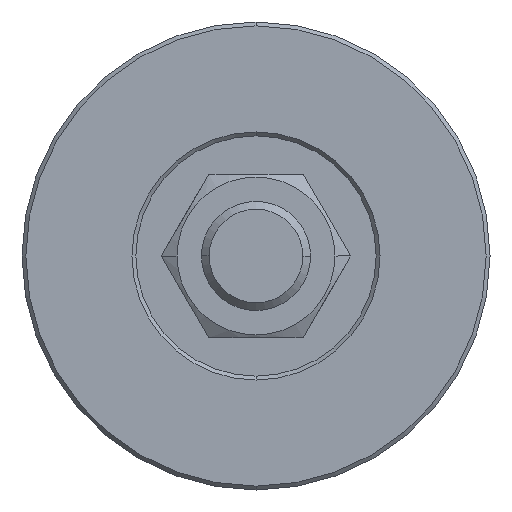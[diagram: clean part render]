
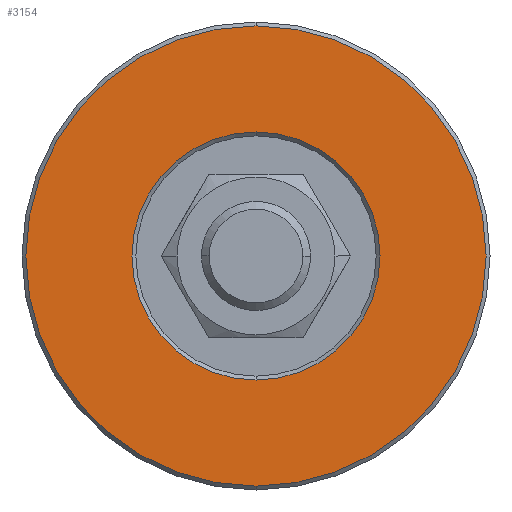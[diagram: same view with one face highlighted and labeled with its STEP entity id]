
A CAD part, front view. The second image highlights one B-rep face of the part: STEP entity #3154.
In plain terms, the highlighted planar face has unit normal (0, -1, 0).
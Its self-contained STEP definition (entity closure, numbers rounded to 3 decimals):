
#118 = AXIS2_PLACEMENT_3D ( 'NONE', #2788, #3349, #5167 ) ;
#153 = DIRECTION ( 'NONE',  ( 0., 1., 0. ) ) ;
#504 = CIRCLE ( 'NONE', #118, 29.5 ) ;
#591 = ORIENTED_EDGE ( 'NONE', *, *, #5967, .T. ) ;
#901 = PLANE ( 'NONE',  #2119 ) ;
#1012 = FACE_OUTER_BOUND ( 'NONE', #5130, .T. ) ;
#1132 = ORIENTED_EDGE ( 'NONE', *, *, #6737, .T. ) ;
#1261 = CARTESIAN_POINT ( 'NONE',  ( 0., 0., -29.5 ) ) ;
#1445 = CARTESIAN_POINT ( 'NONE',  ( 15.4, 0., 0. ) ) ;
#1502 = DIRECTION ( 'NONE',  ( 0., 0., -1. ) ) ;
#1898 = EDGE_CURVE ( 'NONE', #7165, #3847, #3217, .T. ) ;
#2119 = AXIS2_PLACEMENT_3D ( 'NONE', #1445, #2252, #1502 ) ;
#2252 = DIRECTION ( 'NONE',  ( 0., -1., 0. ) ) ;
#2587 = CIRCLE ( 'NONE', #5203, 15.9 ) ;
#2664 = ORIENTED_EDGE ( 'NONE', *, *, #5581, .T. ) ;
#2788 = CARTESIAN_POINT ( 'NONE',  ( 0., 0., 0. ) ) ;
#2811 = DIRECTION ( 'NONE',  ( 0., 0., -1. ) ) ;
#3034 = EDGE_LOOP ( 'NONE', ( #2664, #1132 ) ) ;
#3154 = ADVANCED_FACE ( 'NONE', ( #1012, #5545 ), #901, .T. ) ;
#3217 = CIRCLE ( 'NONE', #6297, 29.5 ) ;
#3349 = DIRECTION ( 'NONE',  ( 0., -1., 0. ) ) ;
#3472 = CIRCLE ( 'NONE', #3503, 15.9 ) ;
#3503 = AXIS2_PLACEMENT_3D ( 'NONE', #6146, #153, #7421 ) ;
#3528 = DIRECTION ( 'NONE',  ( 0., 1., 0. ) ) ;
#3847 = VERTEX_POINT ( 'NONE', #6816 ) ;
#4023 = ORIENTED_EDGE ( 'NONE', *, *, #1898, .T. ) ;
#4129 = CARTESIAN_POINT ( 'NONE',  ( 0., 0., 0. ) ) ;
#4450 = VERTEX_POINT ( 'NONE', #7237 ) ;
#4774 = DIRECTION ( 'NONE',  ( 0., 0., -1. ) ) ;
#4831 = CARTESIAN_POINT ( 'NONE',  ( 0., 0., -15.9 ) ) ;
#5130 = EDGE_LOOP ( 'NONE', ( #591, #4023 ) ) ;
#5167 = DIRECTION ( 'NONE',  ( 0., 0., -1. ) ) ;
#5203 = AXIS2_PLACEMENT_3D ( 'NONE', #4129, #3528, #4774 ) ;
#5545 = FACE_BOUND ( 'NONE', #3034, .T. ) ;
#5581 = EDGE_CURVE ( 'NONE', #5601, #4450, #2587, .T. ) ;
#5601 = VERTEX_POINT ( 'NONE', #4831 ) ;
#5967 = EDGE_CURVE ( 'NONE', #3847, #7165, #504, .T. ) ;
#6146 = CARTESIAN_POINT ( 'NONE',  ( 0., 0., 0. ) ) ;
#6297 = AXIS2_PLACEMENT_3D ( 'NONE', #6938, #6394, #2811 ) ;
#6394 = DIRECTION ( 'NONE',  ( 0., -1., 0. ) ) ;
#6737 = EDGE_CURVE ( 'NONE', #4450, #5601, #3472, .T. ) ;
#6816 = CARTESIAN_POINT ( 'NONE',  ( 0., 0., 29.5 ) ) ;
#6938 = CARTESIAN_POINT ( 'NONE',  ( 0., 0., 0. ) ) ;
#7165 = VERTEX_POINT ( 'NONE', #1261 ) ;
#7237 = CARTESIAN_POINT ( 'NONE',  ( 0., 0., 15.9 ) ) ;
#7421 = DIRECTION ( 'NONE',  ( 0., 0., -1. ) ) ;
